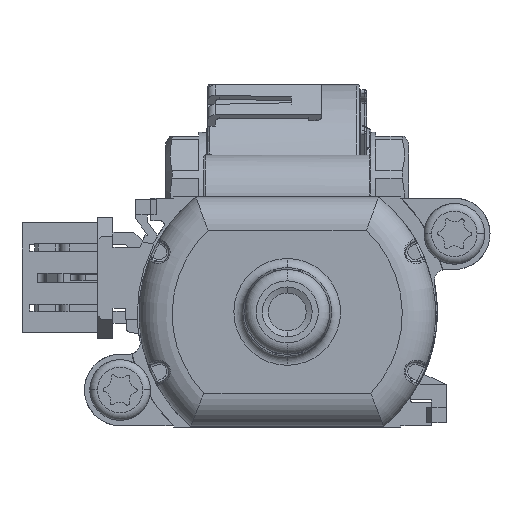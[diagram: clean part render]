
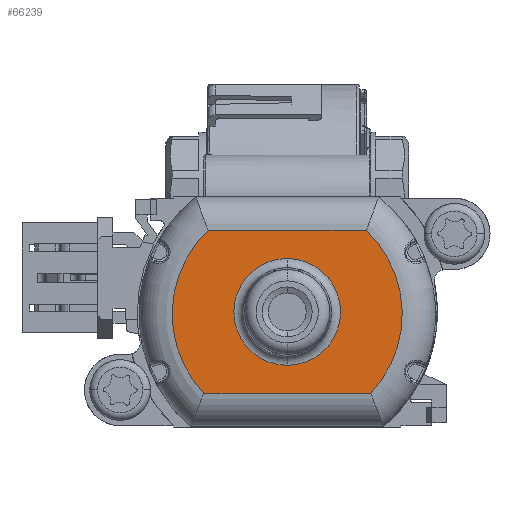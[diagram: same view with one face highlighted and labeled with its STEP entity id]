
A CAD part, front view. The second image highlights one B-rep face of the part: STEP entity #66239.
In plain terms, the highlighted planar face has unit normal (0, -1, 0).
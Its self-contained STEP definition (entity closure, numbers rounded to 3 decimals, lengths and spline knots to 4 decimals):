
#22416=CARTESIAN_POINT('',(0.,-2.5039,-0.0112));
#22417=DIRECTION('',(0.,-1.,0.));
#22418=DIRECTION('',(-0.687,0.,0.727));
#22419=AXIS2_PLACEMENT_3D('',#22416,#22417,#22418);
#22942=CARTESIAN_POINT('',(0.,-2.5039,-0.0112));
#22943=DIRECTION('',(0.,-1.,0.));
#22944=DIRECTION('',(0.724,0.,-0.69));
#22945=AXIS2_PLACEMENT_3D('',#22942,#22943,#22944);
#23223=DIRECTION('',(1.,0.,0.));
#23224=VECTOR('',#23223,0.8652);
#23225=CARTESIAN_POINT('',(-0.4326,-2.5039,
-0.4232));
#23226=LINE('',#23225,#23224);
#23227=DIRECTION('',(-1.,0.,0.));
#23228=VECTOR('',#23227,0.8203);
#23229=CARTESIAN_POINT('',(0.4102,-2.5039,
0.4232));
#23230=LINE('',#23229,#23228);
#23231=CARTESIAN_POINT('',(0.,-2.5039,0.));
#23232=DIRECTION('',(0.,-1.,0.));
#23233=DIRECTION('',(0.,0.,1.));
#23234=AXIS2_PLACEMENT_3D('',#23231,#23232,#23233);
#23236=CARTESIAN_POINT('',(0.,-2.5039,0.));
#23237=DIRECTION('',(0.,-1.,0.));
#23238=DIRECTION('',(0.,0.,-1.));
#23239=AXIS2_PLACEMENT_3D('',#23236,#23237,#23238);
#24402=CARTESIAN_POINT('',(0.,-2.5039,0.2773));
#24403=CARTESIAN_POINT('',(0.,-2.5039,-0.2773));
#24404=VERTEX_POINT('',#24402);
#24405=VERTEX_POINT('',#24403);
#24414=CARTESIAN_POINT('',(0.4102,-2.5039,
0.4232));
#24415=CARTESIAN_POINT('',(-0.4102,-2.5039,
0.4232));
#24416=VERTEX_POINT('',#24414);
#24417=VERTEX_POINT('',#24415);
#24418=CARTESIAN_POINT('',(-0.4326,-2.5039,
-0.4232));
#24419=CARTESIAN_POINT('',(0.4326,-2.5039,
-0.4232));
#24420=VERTEX_POINT('',#24418);
#24421=VERTEX_POINT('',#24419);
#66222=CARTESIAN_POINT('',(0.,-2.5039,0.));
#66223=DIRECTION('',(0.,1.,0.));
#66224=DIRECTION('',(-1.,0.,0.));
#66225=AXIS2_PLACEMENT_3D('',#66222,#66223,#66224);
#66226=PLANE('',#66225);
#66227=ORIENTED_EDGE('',*,*,#65849,.F.);
#66228=ORIENTED_EDGE('',*,*,#66213,.F.);
#66229=ORIENTED_EDGE('',*,*,#64913,.F.);
#66230=ORIENTED_EDGE('',*,*,#65697,.F.);
#66231=EDGE_LOOP('',(#66227,#66228,#66229,#66230));
#66232=FACE_OUTER_BOUND('',#66231,.F.);
#66234=ORIENTED_EDGE('',*,*,#66233,.T.);
#66236=ORIENTED_EDGE('',*,*,#66235,.T.);
#66237=EDGE_LOOP('',(#66234,#66236));
#66238=FACE_BOUND('',#66237,.F.);
#66239=ADVANCED_FACE('',(#66232,#66238),#66226,.F.);
#22420=CIRCLE('',#22419,0.5974);
#22946=CIRCLE('',#22945,0.5974);
#23235=CIRCLE('',#23234,0.2773);
#23240=CIRCLE('',#23239,0.2773);
#64913=EDGE_CURVE('',#24417,#24420,#22420,.T.);
#65697=EDGE_CURVE('',#24416,#24417,#23230,.T.);
#65849=EDGE_CURVE('',#24421,#24416,#22946,.T.);
#66213=EDGE_CURVE('',#24420,#24421,#23226,.T.);
#66233=EDGE_CURVE('',#24404,#24405,#23235,.T.);
#66235=EDGE_CURVE('',#24405,#24404,#23240,.T.);
